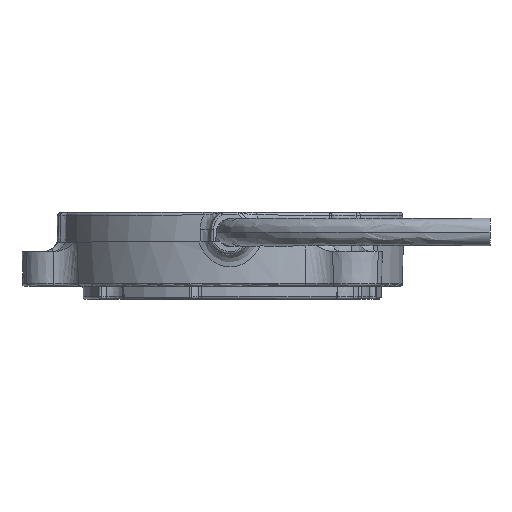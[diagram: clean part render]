
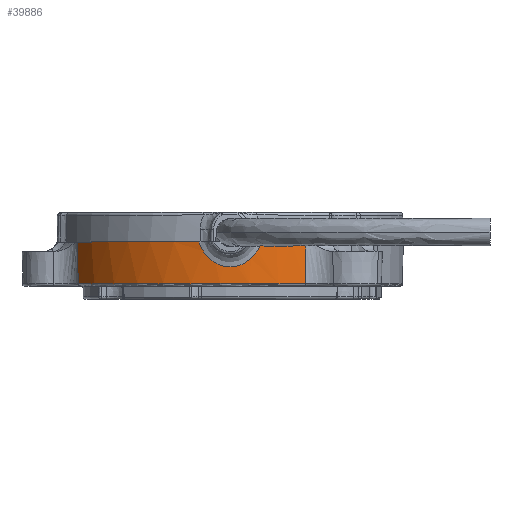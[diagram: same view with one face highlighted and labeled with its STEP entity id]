
A CAD part, top view. The second image highlights one B-rep face of the part: STEP entity #39886.
In plain terms, the highlighted conical face has half-angle 1 degrees and reference radius 20 mm.
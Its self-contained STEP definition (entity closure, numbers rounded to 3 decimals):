
#123 = CARTESIAN_POINT ( 'NONE',  ( 0.424, 2.242, 19.947 ) ) ;
#360 = CARTESIAN_POINT ( 'NONE',  ( -1.014, 2.372, 19.928 ) ) ;
#600 = CONICAL_SURFACE ( 'NONE', #26859, 20., 0.017 ) ;
#827 = CARTESIAN_POINT ( 'NONE',  ( -0.811, 2.315, 19.936 ) ) ;
#883 = LINE ( 'NONE', #27637, #42488 ) ;
#3695 = CARTESIAN_POINT ( 'NONE',  ( -3.634, 5.1, 19.667 ) ) ;
#3715 = CARTESIAN_POINT ( 'NONE',  ( 1.957, 2.822, 19.865 ) ) ;
#4425 = CARTESIAN_POINT ( 'NONE',  ( 3.634, 5.1, 19.667 ) ) ;
#4663 = CARTESIAN_POINT ( 'NONE',  ( -3.335, 4.443, 19.708 ) ) ;
#5374 = CARTESIAN_POINT ( 'NONE',  ( -3.463, 4.724, 19.691 ) ) ;
#5607 = CARTESIAN_POINT ( 'NONE',  ( -2.853, 3.648, 19.77 ) ) ;
#6266 = B_SPLINE_CURVE_WITH_KNOTS ( 'NONE', 3,
 ( #4425, #18221, #33493, #33008, #19171, #33243, #33950, #41198, #40720, #47716, #14575, #37112, #3715, #18452, #14817, #11677, #30082, #123, #29619, #7551, #26448, #827, #360, #15058, #29849, #26206, #40955, #8980, #31032, #5607, #41678, #38309, #42143, #15766, #4663, #5374, #23500, #34910 ),
 .UNSPECIFIED., .F., .F.,
 ( 4, 2, 2, 2, 2, 2, 2, 2, 2, 2, 2, 2, 2, 2, 2, 2, 2, 2, 4 ),
 ( 0., 0.001, 0.001, 0.001, 0.002, 0.002, 0.003, 0.004, 0.004, 0.005, 0.006, 0.006, 0.007, 0.007, 0.008, 0.009, 0.009, 0.009, 0.01 ),
 .UNSPECIFIED. ) ;
#7451 = DIRECTION ( 'NONE',  ( 0., 0., -1. ) ) ;
#7551 = CARTESIAN_POINT ( 'NONE',  ( -0.199, 2.221, 19.95 ) ) ;
#7553 = CIRCLE ( 'NONE', #30766, 19.916 ) ;
#8175 = EDGE_CURVE ( 'NONE', #12929, #27270, #10142, .T. ) ;
#8903 = ORIENTED_EDGE ( 'NONE', *, *, #8175, .T. ) ;
#8980 = CARTESIAN_POINT ( 'NONE',  ( -2.432, 3.196, 19.819 ) ) ;
#10142 = CIRCLE ( 'NONE', #17096, 20. ) ;
#11412 = CARTESIAN_POINT ( 'NONE',  ( 8.675, 0.295, 17.927 ) ) ;
#11677 = CARTESIAN_POINT ( 'NONE',  ( 1.027, 2.376, 19.927 ) ) ;
#12673 = EDGE_CURVE ( 'NONE', #39987, #31361, #29370, .T. ) ;
#12929 = VERTEX_POINT ( 'NONE', #3695 ) ;
#14575 = CARTESIAN_POINT ( 'NONE',  ( 2.441, 3.203, 19.818 ) ) ;
#14817 = CARTESIAN_POINT ( 'NONE',  ( 1.411, 2.521, 19.906 ) ) ;
#15058 = CARTESIAN_POINT ( 'NONE',  ( -1.4, 2.517, 19.907 ) ) ;
#15160 = VERTEX_POINT ( 'NONE', #11412 ) ;
#15181 = EDGE_LOOP ( 'NONE', ( #30248, #30889, #8903, #26439, #25935, #33340 ) ) ;
#15766 = CARTESIAN_POINT ( 'NONE',  ( -3.292, 4.349, 19.714 ) ) ;
#17096 = AXIS2_PLACEMENT_3D ( 'NONE', #25992, #45299, #19434 ) ;
#18221 = CARTESIAN_POINT ( 'NONE',  ( 3.549, 4.913, 19.679 ) ) ;
#18452 = CARTESIAN_POINT ( 'NONE',  ( 1.599, 2.612, 19.893 ) ) ;
#19171 = CARTESIAN_POINT ( 'NONE',  ( 3.294, 4.354, 19.714 ) ) ;
#19434 = DIRECTION ( 'NONE',  ( 0., 0., 1. ) ) ;
#20410 = CARTESIAN_POINT ( 'NONE',  ( 8.712, 5.1, 18.003 ) ) ;
#21530 = DIRECTION ( 'NONE',  ( 0., -1., 0. ) ) ;
#21836 = DIRECTION ( 'NONE',  ( 0., 1., 0. ) ) ;
#22437 = DIRECTION ( 'NONE',  ( 0., 1., 0. ) ) ;
#23500 = CARTESIAN_POINT ( 'NONE',  ( -3.549, 4.912, 19.679 ) ) ;
#25186 = DIRECTION ( 'NONE',  ( 0., 0., -1. ) ) ;
#25612 = FACE_OUTER_BOUND ( 'NONE', #15181, .T. ) ;
#25935 = ORIENTED_EDGE ( 'NONE', *, *, #40269, .T. ) ;
#25992 = CARTESIAN_POINT ( 'NONE',  ( 0., 5.1, 0. ) ) ;
#26149 = VERTEX_POINT ( 'NONE', #43807 ) ;
#26206 = CARTESIAN_POINT ( 'NONE',  ( -1.943, 2.813, 19.866 ) ) ;
#26439 = ORIENTED_EDGE ( 'NONE', *, *, #40307, .T. ) ;
#26448 = CARTESIAN_POINT ( 'NONE',  ( -0.404, 2.24, 19.947 ) ) ;
#26859 = AXIS2_PLACEMENT_3D ( 'NONE', #29497, #22437, #7451 ) ;
#27270 = VERTEX_POINT ( 'NONE', #38167 ) ;
#27390 = DIRECTION ( 'NONE',  ( 0.015, -1., -0.008 ) ) ;
#27637 = CARTESIAN_POINT ( 'NONE',  ( 8.712, 5.1, 18.003 ) ) ;
#29370 = CIRCLE ( 'NONE', #40918, 20. ) ;
#29497 = CARTESIAN_POINT ( 'NONE',  ( 0., 5.1, 0. ) ) ;
#29619 = CARTESIAN_POINT ( 'NONE',  ( 0.214, 2.222, 19.95 ) ) ;
#29849 = CARTESIAN_POINT ( 'NONE',  ( -1.586, 2.605, 19.894 ) ) ;
#30082 = CARTESIAN_POINT ( 'NONE',  ( 0.83, 2.319, 19.935 ) ) ;
#30248 = ORIENTED_EDGE ( 'NONE', *, *, #12673, .T. ) ;
#30766 = AXIS2_PLACEMENT_3D ( 'NONE', #36633, #21836, #36872 ) ;
#30889 = ORIENTED_EDGE ( 'NONE', *, *, #31001, .T. ) ;
#31001 = EDGE_CURVE ( 'NONE', #31361, #12929, #6266, .T. ) ;
#31032 = CARTESIAN_POINT ( 'NONE',  ( -2.58, 3.339, 19.802 ) ) ;
#31361 = VERTEX_POINT ( 'NONE', #37304 ) ;
#33008 = CARTESIAN_POINT ( 'NONE',  ( 3.337, 4.447, 19.708 ) ) ;
#33243 = CARTESIAN_POINT ( 'NONE',  ( 3.199, 4.173, 19.726 ) ) ;
#33340 = ORIENTED_EDGE ( 'NONE', *, *, #35960, .F. ) ;
#33493 = CARTESIAN_POINT ( 'NONE',  ( 3.465, 4.727, 19.691 ) ) ;
#33950 = CARTESIAN_POINT ( 'NONE',  ( 3.148, 4.085, 19.733 ) ) ;
#34910 = CARTESIAN_POINT ( 'NONE',  ( -3.634, 5.1, 19.667 ) ) ;
#35960 = EDGE_CURVE ( 'NONE', #39987, #15160, #883, .T. ) ;
#36633 = CARTESIAN_POINT ( 'NONE',  ( 0., 0.295, 0. ) ) ;
#36872 = DIRECTION ( 'NONE',  ( 0., 0., -1. ) ) ;
#37112 = CARTESIAN_POINT ( 'NONE',  ( 2.125, 2.941, 19.85 ) ) ;
#37304 = CARTESIAN_POINT ( 'NONE',  ( 3.634, 5.1, 19.667 ) ) ;
#38167 = CARTESIAN_POINT ( 'NONE',  ( -17.63, 5.1, 9.444 ) ) ;
#38309 = CARTESIAN_POINT ( 'NONE',  ( -3.144, 4.078, 19.733 ) ) ;
#39476 = CARTESIAN_POINT ( 'NONE',  ( 0., 5.1, 0. ) ) ;
#39886 = ADVANCED_FACE ( 'NONE', ( #25612 ), #600, .T. ) ;
#39987 = VERTEX_POINT ( 'NONE', #20410 ) ;
#40269 = EDGE_CURVE ( 'NONE', #26149, #15160, #7553, .T. ) ;
#40307 = EDGE_CURVE ( 'NONE', #27270, #26149, #41907, .T. ) ;
#40720 = CARTESIAN_POINT ( 'NONE',  ( 2.863, 3.661, 19.769 ) ) ;
#40918 = AXIS2_PLACEMENT_3D ( 'NONE', #39476, #21530, #25186 ) ;
#40955 = CARTESIAN_POINT ( 'NONE',  ( -2.115, 2.933, 19.85 ) ) ;
#41198 = CARTESIAN_POINT ( 'NONE',  ( 2.985, 3.825, 19.754 ) ) ;
#41678 = CARTESIAN_POINT ( 'NONE',  ( -2.978, 3.816, 19.755 ) ) ;
#41907 = LINE ( 'NONE', #42375, #42309 ) ;
#42143 = CARTESIAN_POINT ( 'NONE',  ( -3.196, 4.167, 19.727 ) ) ;
#42309 = VECTOR ( 'NONE', #27390, 1000. ) ;
#42375 = CARTESIAN_POINT ( 'NONE',  ( -17.63, 5.1, 9.444 ) ) ;
#42380 = DIRECTION ( 'NONE',  ( -0.008, -1., -0.016 ) ) ;
#42488 = VECTOR ( 'NONE', #42380, 1000. ) ;
#43807 = CARTESIAN_POINT ( 'NONE',  ( -17.556, 0.295, 9.404 ) ) ;
#45299 = DIRECTION ( 'NONE',  ( 0., -1., 0. ) ) ;
#47716 = CARTESIAN_POINT ( 'NONE',  ( 2.589, 3.348, 19.801 ) ) ;
